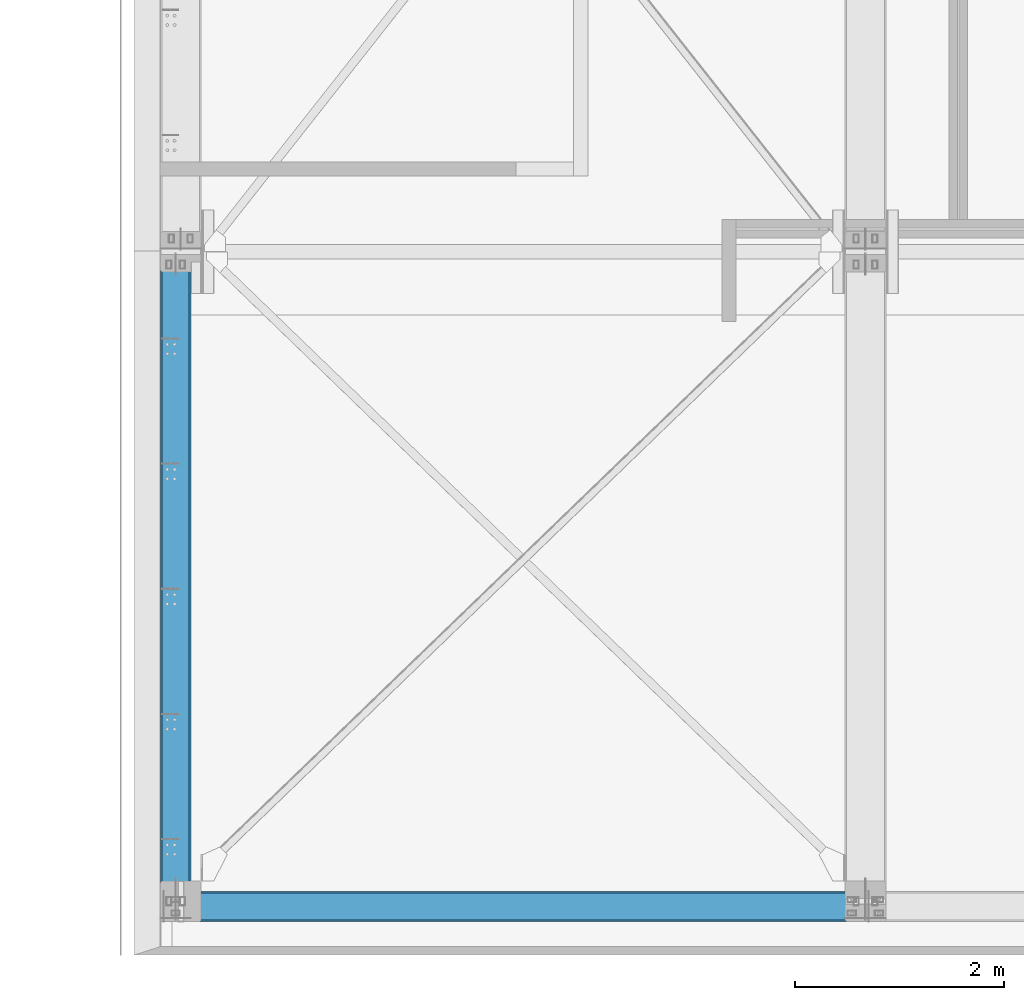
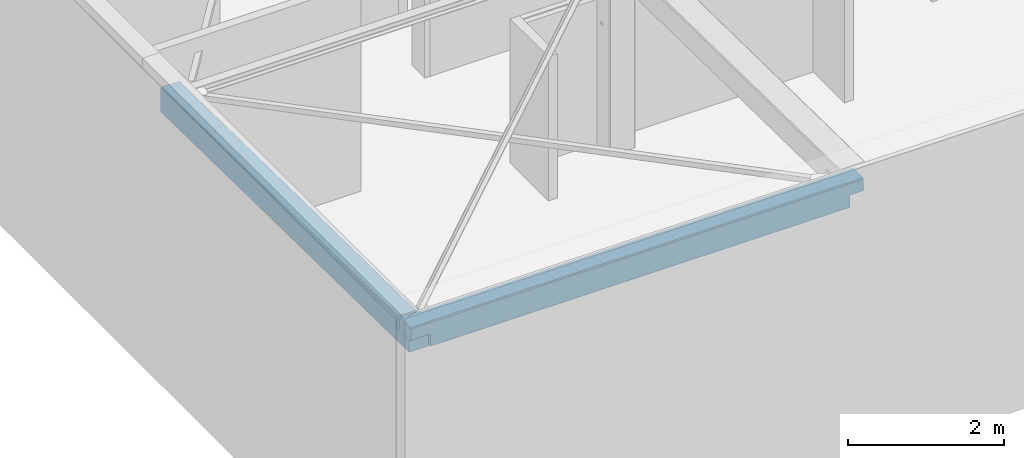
# One storey, part 124 of 186: 2 beams.
"""IFC4X3_ADD2 building model written with IfcOpenShell, lengths in millimetres."""

import ifcopenshell
import ifcopenshell.guid

model = None  # the IFC model being written
_history = None  # IfcOwnerHistory: only IFC2X3 demands one
_inside = {}  # id of a spatial element -> (the spatial element, [elements in it])
_under = {}  # id of a project, library or spatial element -> (it, [spatial elements below it])
_declared = {}  # id of a project -> (the project, [libraries it declares])
_typed = {}  # id of a type object -> (the type object, [elements of that type])
_made_of = {}  # id of a material, layer set ... -> (it, [elements and type objects made of it])


def new_model(schema):
    """Start an empty IFC model of exactly this schema.

    Asked for "IFC4X3", IfcOpenShell would pick the latest addendum, in which some entities
    have other attributes; the version numbers below select the first issue.
    IFC2X3 requires an IfcOwnerHistory on every rooted entity: one is made here for all.
    """
    global model, _history
    if schema == "IFC4X3":
        model = ifcopenshell.file(schema_version=(4, 3, 0, 0))
    else:
        model = ifcopenshell.file(schema=schema)
    _inside.clear()
    _under.clear()
    _declared.clear()
    _typed.clear()
    _made_of.clear()
    _history = None
    if model.schema == "IFC2X3":
        org = make("IfcOrganization", Name="unknown")
        user = make(
            "IfcPersonAndOrganization",
            ThePerson=make("IfcPerson", FamilyName="unknown"),
            TheOrganization=org,
        )
        app = make(
            "IfcApplication",
            ApplicationDeveloper=org,
            Version="unknown",
            ApplicationFullName="unknown",
            ApplicationIdentifier="unknown",
        )
        _history = make(
            "IfcOwnerHistory",
            OwningUser=user,
            OwningApplication=app,
            ChangeAction="ADDED",
            CreationDate=0,
        )
    return model


def make(cls, **values):
    """One entity of the class cls with the attributes given. An attribute that is None is left unset."""
    return model.create_entity(
        cls, **{name: value for name, value in values.items() if value is not None}
    )


def rooted(cls, **values):
    """An entity with a GlobalId (a new one), such as an element, a storey or a relation."""
    return make(cls, GlobalId=ifcopenshell.guid.new(), OwnerHistory=_history, **values)


def si_unit(unit_type, name, prefix=None):
    """IfcSIUnit, for example si_unit("LENGTHUNIT", "METRE", prefix="MILLI")."""
    return make("IfcSIUnit", UnitType=unit_type, Prefix=prefix, Name=name)


def assignment(units):
    """IfcUnitAssignment: the units of a project."""
    return None if units is None else make("IfcUnitAssignment", Units=units)


def point(xyz):
    """IfcCartesianPoint."""
    return None if xyz is None else make("IfcCartesianPoint", Coordinates=xyz)


def direction(xyz):
    """IfcDirection."""
    return None if xyz is None else make("IfcDirection", DirectionRatios=xyz)


def frame(location, z_axis=None, x_axis=None):
    """IfcAxis2Placement3D, a coordinate frame: its origin and axes. An axis left out is left unset."""
    return make(
        "IfcAxis2Placement3D",
        Location=point(location),
        Axis=direction(z_axis),
        RefDirection=direction(x_axis),
    )


def origin_with_axes():
    """The frame at (0, 0, 0) with the z axis (0, 0, 1) and the x axis (1, 0, 0) written out."""
    return frame((0.0, 0.0, 0.0), z_axis=(0.0, 0.0, 1.0), x_axis=(1.0, 0.0, 0.0))


def place(relative_to, where):
    """IfcLocalPlacement: puts the frame where relative to a parent placement (None: the world)."""
    return make(
        "IfcLocalPlacement", PlacementRelTo=relative_to, RelativePlacement=where
    )


def context(
    kind, dimensions, precision=None, world=None, true_north=None, identifier=None
):
    """IfcGeometricRepresentationContext, for example the 3D "Model" context."""
    return make(
        "IfcGeometricRepresentationContext",
        ContextIdentifier=identifier,
        ContextType=kind,
        CoordinateSpaceDimension=dimensions,
        Precision=precision,
        WorldCoordinateSystem=world,
        TrueNorth=true_north,
    )


def subcontext(parent, identifier, kind, view, scale=None):
    """IfcGeometricRepresentationSubContext, for example "Body" below "Model"."""
    return make(
        "IfcGeometricRepresentationSubContext",
        ContextIdentifier=identifier,
        ContextType=kind,
        ParentContext=parent,
        TargetScale=scale,
        TargetView=view,
    )


def project(units=None, contexts=None):
    """IfcProject with its units and contexts."""
    return rooted(
        "IfcProject",
        Name="project",
        RepresentationContexts=contexts,
        UnitsInContext=assignment(units),
    )


def spatial(cls, under=None, at=None, **own):
    """A site, building, storey or space (cls), placed at a placement, below another one or the project."""
    s = rooted(cls, ObjectPlacement=at, **own)
    if under is not None:
        _under.setdefault(under.id(), (under, []))[1].append(s)
    return s


def point_list(points):
    """IfcCartesianPointList2D or 3D."""
    cls = (
        "IfcCartesianPointList2D" if len(points[0]) == 2 else "IfcCartesianPointList3D"
    )
    return make(cls, CoordList=points)


def polygons(points, faces, closed=None, point_numbers=None):
    """IfcPolygonalFaceSet: a face is its outer loop, then its inner loops; points numbered from 1."""
    made = []
    for loops in faces:
        if len(loops) == 1:
            made.append(make("IfcIndexedPolygonalFace", CoordIndex=loops[0]))
        else:
            made.append(
                make(
                    "IfcIndexedPolygonalFaceWithVoids",
                    CoordIndex=loops[0],
                    InnerCoordIndices=loops[1:],
                )
            )
    return make(
        "IfcPolygonalFaceSet",
        Coordinates=point_list(points),
        Closed=closed,
        Faces=made,
        PnIndex=point_numbers,
    )


def shape(context_of_items, identifier, shape_type, items):
    """IfcShapeRepresentation: the items that make up one representation, for example the "Body"."""
    return make(
        "IfcShapeRepresentation",
        ContextOfItems=context_of_items,
        RepresentationIdentifier=identifier,
        RepresentationType=shape_type,
        Items=items,
    )


def made_of(thing, what):
    """Note that an element or type object is made of a material, layer set ...; save() writes the relation."""
    if what is not None:
        _made_of.setdefault(what.id(), (what, []))[1].append(thing)
    return thing


def element(
    cls,
    number,
    at=None,
    inside=None,
    cuts=None,
    type_object=None,
    material=None,
    context=None,
    identifier="Body",
    shape_type=None,
    held_by="IfcProductDefinitionShape",
    body=None,
    shapes=None,
    **own,
):
    """One element of the class cls, such as IfcWall. Its Tag is "e" and its number.

    at: its placement. inside: the storey or other place that contains it. cuts: it is an
    opening in that element (IfcRelVoidsElement). A single representation is given by context,
    identifier, shape_type and body (its items); several are given by shapes. held_by: the class
    of the entity that holds the representations. save() writes the other relations.
    """
    e = rooted(cls, Tag="e%d" % number, ObjectPlacement=at, **own)
    if body is not None:
        shapes = [shape(context, identifier, shape_type, body)]
    if shapes is not None:
        e.Representation = make(held_by, Representations=shapes)
    if inside is not None:
        _inside.setdefault(inside.id(), (inside, []))[1].append(e)
    if cuts is not None:
        rooted(
            "IfcRelVoidsElement", RelatingBuildingElement=cuts, RelatedOpeningElement=e
        )
    if type_object is not None:
        _typed.setdefault(type_object.id(), (type_object, []))[1].append(e)
    return made_of(e, material)


def aggregate(whole, parts):
    """IfcRelAggregates: a whole, such as a stair, and the parts it consists of."""
    return rooted("IfcRelAggregates", RelatingObject=whole, RelatedObjects=parts)


def save(model, path):
    """Write the relations noted so far, then the file.

    IfcRelAggregates (storeys below a building ...), IfcRelContainedInSpatialStructure (elements
    in a storey), IfcRelDefinesByType, IfcRelAssociatesMaterial and IfcRelDeclares: one each for
    every whole, place, type object, material and project.
    """
    for whole, parts in _under.values():
        aggregate(whole, parts)
    for where, things in _inside.values():
        rooted(
            "IfcRelContainedInSpatialStructure",
            RelatedElements=things,
            RelatingStructure=where,
        )
    for kind, things in _typed.values():
        rooted("IfcRelDefinesByType", RelatedObjects=things, RelatingType=kind)
    for what, things in _made_of.values():
        rooted("IfcRelAssociatesMaterial", RelatedObjects=things, RelatingMaterial=what)
    for by, libraries in _declared.values():
        rooted("IfcRelDeclares", RelatingContext=by, RelatedDefinitions=libraries)
    model.write(path)


model = new_model("IFC4X3_ADD2")

# Units and contexts
model_context = context("Model", 3, precision=1e-05, world=origin_with_axes(), true_north=direction((0.0, 1.0)))
body_context = subcontext(model_context, "Body", "Model", "MODEL_VIEW")
ifc_project = project(units=[si_unit("LENGTHUNIT", "METRE", prefix="MILLI"), si_unit("AREAUNIT", "SQUARE_METRE"), si_unit("VOLUMEUNIT", "CUBIC_METRE"), si_unit("PLANEANGLEUNIT", "RADIAN"), si_unit("TIMEUNIT", "SECOND"), si_unit("MASSUNIT", "GRAM")], contexts=[model_context])

# Site, building, storey
site_placement = place(None, origin_with_axes())
site = spatial("IfcSite", under=ifc_project, at=site_placement, Name="Site", CompositionType="ELEMENT")
building_placement = place(site_placement, origin_with_axes())
building = spatial("IfcBuilding", under=site, at=building_placement, Name="IFC Building Story")
storey_placement = place(building_placement, frame((0.0, 0.0, 4370.0), z_axis=(0.0, 0.0, 1.0), x_axis=(1.0, 0.0, 0.0)))
storey = spatial("IfcBuildingStorey", under=building, at=storey_placement, Name="ETAGE 10 (1)", Elevation=4370.0)

# Beams
beam_1_placement = place(storey_placement, frame((0.0, 0.0, -4370.0), z_axis=(0.0, 0.0, 1.0), x_axis=(1.0, 0.0, 0.0)))
element("IfcBeam", 1, at=beam_1_placement, inside=storey, Name="BEAM", ObjectType="CRH_R_400*290*15", context=body_context, shape_type="Tessellation", body=[
    polygons([(33516.188, -14175.0, 7349.598981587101), (33616.188, -14174.99999999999, 7349.598981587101), (33616.188, -14455.0, 7349.598981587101), (33516.188, -14455.0, 7349.598981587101), (33616.188, -14185.0, 7339.598981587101), (33616.188, -14445.0, 7339.598981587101), (39946.18899999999, -14185.0, 7739.598981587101), (33226.188, -14185.0, 7739.598981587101), (33226.188, -14445.0, 7739.598981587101), (39946.18899999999, -14445.0, 7739.598981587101), (33226.188, -14460.0, 7724.5989815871), (39946.18899999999, -14460.0, 7724.5989815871), (33516.188, -14460.0, 7354.598981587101), (39746.18899999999, -14460.0, 7354.598981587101), (39746.18899999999, -14460.0, 7544.598981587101), (39946.18899999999, -14460.0, 7544.598981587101), (33226.188, -14460.0, 7544.598981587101), (33516.188, -14460.0, 7544.598981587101), (39746.18899999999, -14170.0, 7354.598981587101), (39746.18899999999, -14170.0, 7544.598981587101), (39746.18899999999, -14445.0, 7339.598981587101), (39746.18899999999, -14185.0, 7339.598981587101), (39946.18899999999, -14170.0, 7544.598981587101), (39946.18899999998, -14170.0, 7724.5989815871), (33226.188, -14170.0, 7724.598981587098), (33226.188, -14170.0, 7544.598981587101), (33516.188, -14170.0, 7544.598981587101), (33516.188, -14170.0, 7354.598981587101)], [[[1, 2, 3, 4]], [[2, 5, 6, 3]], [[7, 8, 9, 10]], [[10, 9, 11, 12]], [[15, 16, 12]], [[15, 12, 18]], [[18, 13, 14]], [[18, 14, 15]], [[12, 11, 18]], [[11, 17, 18]], [[19, 20, 15]], [[19, 15, 14]], [[19, 14, 21]], [[19, 21, 22]], [[20, 23, 16, 15]], [[23, 24, 7]], [[23, 7, 10]], [[23, 10, 12]], [[23, 12, 16]], [[24, 25, 8, 7]], [[17, 11, 9]], [[17, 9, 8]], [[17, 8, 25]], [[17, 25, 26]], [[18, 17, 26, 27]], [[27, 26, 25]], [[27, 25, 20]], [[20, 19, 28]], [[20, 28, 27]], [[25, 24, 20]], [[24, 23, 20]], [[4, 13, 18]], [[4, 18, 27]], [[4, 27, 28]], [[4, 28, 1]], [[3, 6, 21]], [[3, 21, 14]], [[14, 13, 3]], [[13, 4, 3]], [[5, 22, 21, 6]], [[2, 1, 28]], [[2, 28, 19]], [[19, 22, 5]], [[19, 5, 2]]]),
])
beam_2_placement = place(storey_placement, frame((0.0, 0.0, -4370.0), z_axis=(0.0, 0.0, 1.0), x_axis=(1.0, 0.0, 0.0)))
element("IfcBeam", 2, at=beam_2_placement, inside=storey, Name="BEAM", ObjectType="CRH_R_400*290*15", context=body_context, shape_type="Tessellation", body=[
    polygons([(33486.18835113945, -8254.99767876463, 7253.08209237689), (33481.1876988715, -8254.99767876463, 7248.08083606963), (33221.1876988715, -8254.99767876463, 7248.08083606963), (33216.18704660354, -8254.99767876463, 7253.08209237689), (33213.07873240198, -8054.99767876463, 7253.082092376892), (33489.29666534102, -8054.99767876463, 7253.082092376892), (33496.1876988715, -14140.0, 7724.600570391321), (33496.1876988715, -8054.99767876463, 7630.018651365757), (33481.1876988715, -8054.99767876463, 7645.02046324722), (33481.1876988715, -14140.0, 7739.602382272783), (33221.1876988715, -8054.99767876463, 7645.020463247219), (33221.1876988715, -14140.0, 7739.602382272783), (33206.1876988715, -8054.99767876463, 7630.018651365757), (33206.1876988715, -14140.0, 7724.600570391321), (33206.1876988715, -8054.99767876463, 7259.973958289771), (33206.1876988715, -14440.0, 7359.21891180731), (33206.1876988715, -14440.0, 7534.599416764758), (33206.1876988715, -14140.0, 7534.599416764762), (33481.1876988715, -14050.0, 7338.155155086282), (33493.24813287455, -14050.0, 7350.21704589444), (33209.12726486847, -14050.0, 7350.21704589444), (33221.1876988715, -14050.0, 7338.155155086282), (33487.18692018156, -14440.0, 7350.217045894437), (33215.18847756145, -14440.0, 7350.217045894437), (33496.1876988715, -14440.0, 7359.21891180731), (33496.1876988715, -14440.0, 7534.599416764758), (33496.1876988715, -14140.0, 7534.59941676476), (33496.1876988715, -8054.99767876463, 7259.973958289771)], [[[1, 2, 3, 4]], [[5, 6, 1, 4]], [[7, 8, 9, 10]], [[10, 9, 11, 12]], [[12, 11, 13, 14]], [[18, 14, 13]], [[18, 13, 15]], [[15, 16, 18]], [[16, 17, 18]], [[19, 20, 21, 22]], [[20, 23, 24, 21]], [[17, 16, 24]], [[17, 24, 23]], [[17, 23, 25]], [[17, 25, 26]], [[26, 27, 18, 17]], [[27, 7, 10]], [[27, 10, 12]], [[27, 12, 14]], [[27, 14, 18]], [[27, 26, 25]], [[27, 25, 28]], [[28, 8, 7]], [[28, 7, 27]], [[5, 15, 13]], [[5, 13, 11]], [[5, 11, 9]], [[5, 9, 8]], [[5, 8, 28]], [[5, 28, 6]], [[21, 24, 16]], [[4, 3, 22]], [[21, 16, 15]], [[4, 22, 21]], [[21, 15, 4]], [[15, 5, 4]], [[2, 19, 22, 3]], [[1, 6, 28]], [[1, 28, 20]], [[20, 19, 1]], [[19, 2, 1]], [[28, 25, 20]], [[25, 23, 20]]]),
])

save(model, "model.ifc")
